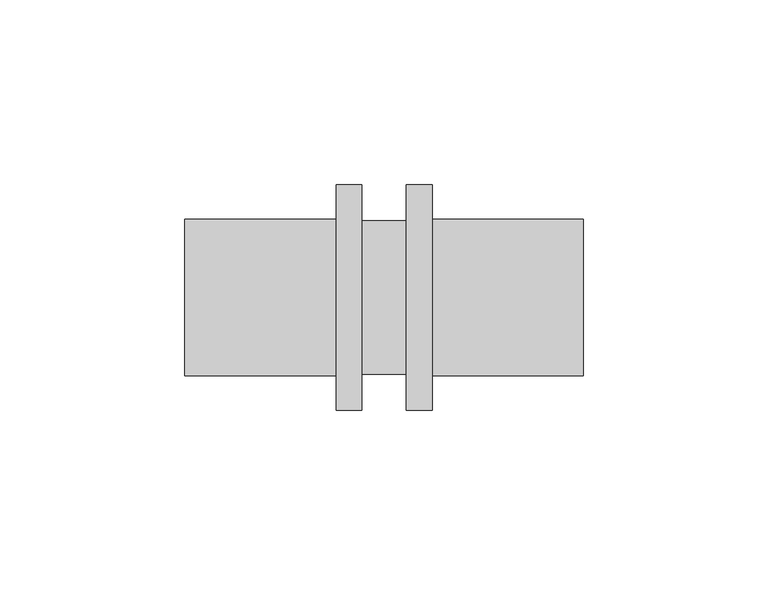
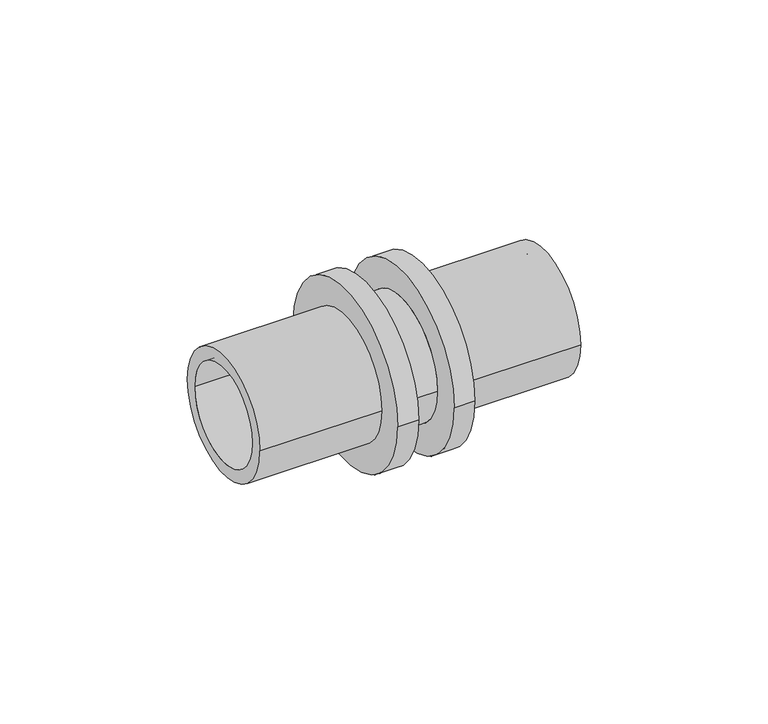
"""IFC4 building model written with IfcOpenShell, lengths in millimetres: pipe fitting geometry, RAUTITAN_Union_RX+ stabil : RTI RX+ stabil U DE."""

from ifc_helpers import new_model, si_unit, frame, origin, place, context, project, spatial, polyline, circle_curve, source, transform, mapped, element, save
from ifc_brep_helpers import plane_surface, cylinder_surface, revolved_surface, advanced_brep


def pipe_fitting_ffb84d2a(model_context):
    return source(origin(), model_context, "Body", "AdvancedBrep", [
        advanced_brep(
        [(-54.0, 16.75, 0.0), (-54.0, -16.75, 0.0), (54.0, -16.75, 0.0), (54.0, 16.75, 0.0), (-13.0, 21.15, 0.0), (-13.0, -21.15, 0.0), (-54.0, -21.15, 0.0), (-54.0, 21.15, 0.0), (-6.0, 30.55, 0.0), (-6.0, -30.55, 0.0), (-13.0, -30.55, 0.0), (-13.0, 30.55, 0.0), (6.0, 20.75, 0.0), (6.0, -20.75, 0.0), (-6.0, -20.75, 0.0), (-6.0, 20.75, 0.0), (13.0, 30.55, 0.0), (13.0, -30.55, 0.0), (6.0, -30.55, 0.0), (6.0, 30.55, 0.0), (54.0, 21.15, 0.0), (54.0, -21.15, 0.0), (13.0, -21.15, 0.0), (13.0, 21.15, 0.0)],
        [
            (0, 1, circle_curve(frame((-54.0, 0.0, 0.0), z_axis=(-1.0, 0.0, 0.0), x_axis=(0.0, -1.0, 0.0)), 16.75)),
            (1, 2),
            (2, 3, circle_curve(frame((54.0, 0.0, 0.0), z_axis=(1.0, 0.0, 0.0), x_axis=(0.0, -1.0, 0.0)), 16.75)),
            (3, 0),
            (4, 5, circle_curve(frame((-13.0, 0.0, 0.0), z_axis=(-1.0, 0.0, 0.0), x_axis=(0.0, -1.0, 0.0)), 21.15)),
            (5, 6),
            (6, 7, circle_curve(frame((-54.0, 0.0, 0.0), z_axis=(1.0, 0.0, 0.0), x_axis=(0.0, -1.0, 0.0)), 21.15)),
            (7, 4),
            (8, 9, circle_curve(frame((-6.0, 0.0, 0.0), z_axis=(-1.0, 0.0, 0.0), x_axis=(0.0, -1.0, 0.0)), 30.55)),
            (9, 10),
            (10, 11, circle_curve(frame((-13.0, 0.0, 0.0), z_axis=(1.0, 0.0, 0.0), x_axis=(0.0, -1.0, 0.0)), 30.55)),
            (11, 8),
            (12, 13, circle_curve(frame((6.0, 0.0, 0.0), z_axis=(-1.0, 0.0, 0.0), x_axis=(0.0, -1.0, 0.0)), 20.75)),
            (13, 14),
            (14, 15, circle_curve(frame((-6.0, 0.0, 0.0), z_axis=(1.0, 0.0, 0.0), x_axis=(0.0, -1.0, 0.0)), 20.75)),
            (15, 12),
            (16, 17, circle_curve(frame((13.0, 0.0, 0.0), z_axis=(-1.0, 0.0, 0.0), x_axis=(0.0, -1.0, 0.0)), 30.55)),
            (17, 18),
            (18, 19, circle_curve(frame((6.0, 0.0, 0.0), z_axis=(1.0, 0.0, 0.0), x_axis=(0.0, -1.0, 0.0)), 30.55)),
            (19, 16),
            (20, 21, circle_curve(frame((54.0, 0.0, 0.0), z_axis=(-1.0, 0.0, 0.0), x_axis=(0.0, -1.0, 0.0)), 21.15)),
            (21, 22),
            (22, 23, circle_curve(frame((13.0, 0.0, 0.0), z_axis=(1.0, 0.0, 0.0), x_axis=(0.0, -1.0, 0.0)), 21.15)),
            (23, 20),
            (1, 0, circle_curve(frame((-54.0, 0.0, 0.0), z_axis=(-1.0, 0.0, 0.0), x_axis=(0.0, 1.0, 0.0)), 16.75)),
            (3, 2, circle_curve(frame((54.0, 0.0, 0.0), z_axis=(1.0, 0.0, 0.0), x_axis=(0.0, 1.0, 0.0)), 16.75)),
            (6, 7, circle_curve(frame((-54.0, 0.0, 0.0), z_axis=(-1.0, 0.0, 0.0), x_axis=(0.0, 1.0, 0.0)), 21.15)),
            (5, 4, circle_curve(frame((-13.0, 0.0, 0.0), z_axis=(-1.0, 0.0, 0.0), x_axis=(0.0, 1.0, 0.0)), 21.15)),
            (10, 11, circle_curve(frame((-13.0, 0.0, 0.0), z_axis=(-1.0, 0.0, 0.0), x_axis=(0.0, 1.0, 0.0)), 30.55)),
            (9, 8, circle_curve(frame((-6.0, 0.0, 0.0), z_axis=(-1.0, 0.0, 0.0), x_axis=(0.0, 1.0, 0.0)), 30.55)),
            (14, 15, circle_curve(frame((-6.0, 0.0, 0.0), z_axis=(-1.0, 0.0, 0.0), x_axis=(0.0, 1.0, 0.0)), 20.75)),
            (13, 12, circle_curve(frame((6.0, 0.0, 0.0), z_axis=(-1.0, 0.0, 0.0), x_axis=(0.0, 1.0, 0.0)), 20.75)),
            (18, 19, circle_curve(frame((6.0, 0.0, 0.0), z_axis=(-1.0, 0.0, 0.0), x_axis=(0.0, 1.0, 0.0)), 30.55)),
            (17, 16, circle_curve(frame((13.0, 0.0, 0.0), z_axis=(-1.0, 0.0, 0.0), x_axis=(0.0, 1.0, 0.0)), 30.55)),
            (22, 23, circle_curve(frame((13.0, 0.0, 0.0), z_axis=(-1.0, 0.0, 0.0), x_axis=(0.0, 1.0, 0.0)), 21.15)),
            (21, 20, circle_curve(frame((54.0, 0.0, 0.0), z_axis=(-1.0, 0.0, 0.0), x_axis=(0.0, 1.0, 0.0)), 21.15)),
        ],
        [
            revolved_surface(polyline([(54.0, -16.75, 0.0), (-54.0, -16.75, 0.0)]), (0.0, 0.0, 0.0), (1.0, 0.0, 0.0)),
            cylinder_surface(frame((0.0, 0.0, 0.0), z_axis=(1.0, 0.0, 0.0), x_axis=(0.0, -1.0, 0.0)), 21.15),
            cylinder_surface(frame((0.0, 0.0, 0.0), z_axis=(1.0, 0.0, 0.0), x_axis=(0.0, -1.0, 0.0)), 30.55),
            cylinder_surface(frame((0.0, 0.0, 0.0), z_axis=(1.0, 0.0, 0.0), x_axis=(0.0, -1.0, 0.0)), 20.75),
            revolved_surface(polyline([(54.0, 16.75, 0.0), (-54.0, 16.75, 0.0)]), (0.0, 0.0, 0.0), (1.0, 0.0, 0.0)),
            plane_surface(frame((-54.0, 0.0, 0.0), z_axis=(-1.0, 0.0, 0.0), x_axis=(0.0, 1.0, 0.0))),
            cylinder_surface(frame((0.0, 0.0, 0.0), z_axis=(1.0, 0.0, 0.0), x_axis=(0.0, 1.0, 0.0)), 21.15),
            plane_surface(frame((-13.0, 0.0, 0.0), z_axis=(-1.0, 0.0, 0.0), x_axis=(0.0, 1.0, 0.0))),
            cylinder_surface(frame((0.0, 0.0, 0.0), z_axis=(1.0, 0.0, 0.0), x_axis=(0.0, 1.0, 0.0)), 30.55),
            plane_surface(frame((-6.0, 0.0, 0.0), z_axis=(1.0, 0.0, 0.0), x_axis=(0.0, 1.0, 0.0))),
            cylinder_surface(frame((0.0, 0.0, 0.0), z_axis=(1.0, 0.0, 0.0), x_axis=(0.0, 1.0, 0.0)), 20.75),
            plane_surface(frame((6.0, 0.0, 0.0), z_axis=(-1.0, 0.0, 0.0), x_axis=(0.0, 1.0, 0.0))),
            plane_surface(frame((13.0, 0.0, 0.0), z_axis=(1.0, 0.0, 0.0), x_axis=(0.0, 1.0, 0.0))),
            plane_surface(frame((54.0, 0.0, 0.0), z_axis=(1.0, 0.0, 0.0), x_axis=(0.0, 1.0, 0.0))),
        ],
        [
            (0, [[1, 2, 3, 4]]),
            (1, [[5, 6, 7, 8]]),
            (2, [[9, 10, 11, 12]]),
            (3, [[13, 14, 15, 16]]),
            (2, [[17, 18, 19, 20]]),
            (1, [[21, 22, 23, 24]]),
            (4, [[25, -4, 26, -2]]),
            (5, [[27, -7], [-25, -1]]),
            (6, [[28, -8, -27, -6]]),
            (7, [[29, -11], [-28, -5]]),
            (8, [[30, -12, -29, -10]]),
            (9, [[-30, -9], [31, -15]]),
            (10, [[32, -16, -31, -14]]),
            (11, [[33, -19], [-32, -13]]),
            (8, [[34, -20, -33, -18]]),
            (12, [[-34, -17], [35, -23]]),
            (6, [[36, -24, -35, -22]]),
            (13, [[-36, -21], [-26, -3]]),
        ],
    ),
    ])


if __name__ == "__main__":
    model = new_model("IFC4")
    model_context = context("Model", 3, world=origin())
    ifc_project = project(units=[si_unit("LENGTHUNIT", "METRE", prefix="MILLI")], contexts=[model_context])
    site = spatial("IfcSite", under=ifc_project)
    building = spatial("IfcBuilding", under=site)
    placement = place(None, origin())
    pipe_fitting_shape = pipe_fitting_ffb84d2a(model_context)
    element("IfcPipeFitting", 1, ObjectType="RAUTITAN_Union_RX+ stabil : RTI RX+ stabil U DE", at=placement, inside=building, context=model_context, shape_type="MappedRepresentation", body=[
        mapped(pipe_fitting_shape, transform((0.0, 0.0, 0.0), x_axis=(1.0, 0.0, 0.0), y_axis=(0.0, 1.0, 0.0), z_axis=(0.0, 0.0, 1.0))),
    ])
    save(model, "model.ifc")
